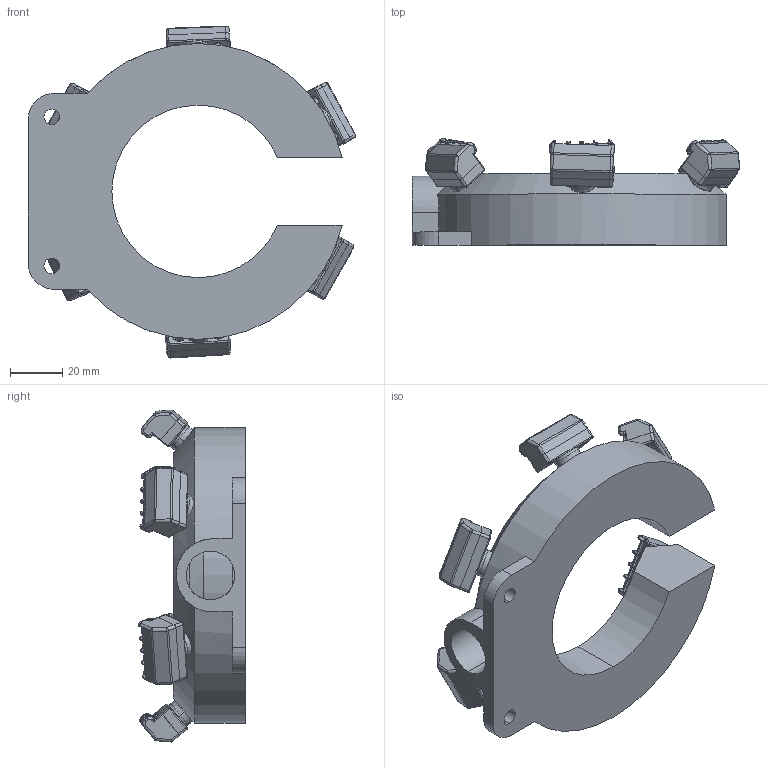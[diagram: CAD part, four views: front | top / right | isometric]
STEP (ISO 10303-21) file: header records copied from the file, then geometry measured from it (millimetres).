
FILE_DESCRIPTION (( 'STEP AP214' ), '1' );
FILE_NAME ('Silvent 454.STEP', '2007-04-02T12:20:30', ( 'Peter' ), ( '' ), 'SwSTEP 2.0', 'SolidWorks 2005204', '' );
FILE_SCHEMA (( 'AUTOMOTIVE_DESIGN' ));
Length unit declared in the file: millimetre
Products named in the file (5): 69042; 69055; 69044_69044-1; 69043_69043-1; Silvent 454
Assembly tree (9 placements, depth 3):
  Silvent 454
    69044_69044-1  x6
      69043_69043-1
      69042
    69055
Bounding box: 125.31 x 40.87 x 127.06 mm (x, y, z)
Volume: 116014.3 mm3; surface area: 59176.3 mm2
Topology: 13 solids, 13 shells, 1966 faces, 5131 edges, 3240 vertices
Faces by surface type: plane 1092, cylinder 581, torus 132, cone 113, sphere 36, bspline 12
Entity records: 13730 total; most frequent: CARTESIAN_POINT 3850, ORIENTED_EDGE 2044, DIRECTION 2009, EDGE_CURVE 1022, AXIS2_PLACEMENT_3D 675, VECTOR 659, LINE 659, VERTEX_POINT 650
